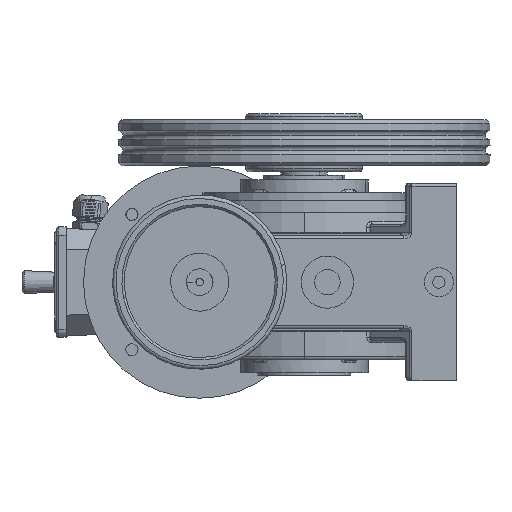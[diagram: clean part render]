
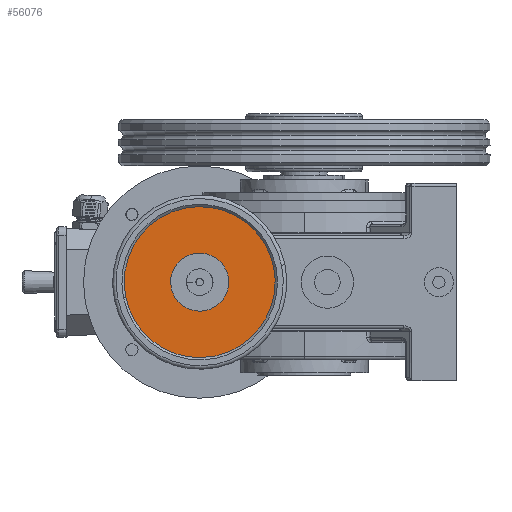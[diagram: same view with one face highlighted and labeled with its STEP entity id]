
A CAD part, left-side view. The second image highlights one B-rep face of the part: STEP entity #56076.
In plain terms, the highlighted planar face has unit normal (-1, 0, 0).
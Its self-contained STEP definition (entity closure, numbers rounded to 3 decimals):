
#1565 = CARTESIAN_POINT ( 'NONE',  ( -185.297, 69.794, 0. ) ) ;
#1844 = CARTESIAN_POINT ( 'NONE',  ( -185.297, 69.794, 0. ) ) ;
#2129 = AXIS2_PLACEMENT_3D ( 'NONE', #69241, #69669, #9526 ) ;
#3231 = AXIS2_PLACEMENT_3D ( 'NONE', #1565, #27494, #81020 ) ;
#4626 = ORIENTED_EDGE ( 'NONE', *, *, #56643, .F. ) ;
#5913 = AXIS2_PLACEMENT_3D ( 'NONE', #39472, #20152, #45609 ) ;
#9526 = DIRECTION ( 'NONE',  ( 0., 0.979, -0.202 ) ) ;
#12378 = DIRECTION ( 'NONE',  ( 1., 0., 0. ) ) ;
#18768 = AXIS2_PLACEMENT_3D ( 'NONE', #38321, #12378, #52763 ) ;
#19721 = FACE_BOUND ( 'NONE', #22039, .T. ) ;
#20152 = DIRECTION ( 'NONE',  ( -1., 0., 0. ) ) ;
#20326 = VERTEX_POINT ( 'NONE', #65128 ) ;
#20756 = DIRECTION ( 'NONE',  ( 1., 0., 0. ) ) ;
#22039 = EDGE_LOOP ( 'NONE', ( #39944, #59831 ) ) ;
#25810 = CIRCLE ( 'NONE', #18768, 25. ) ;
#27494 = DIRECTION ( 'NONE',  ( 1., 0., 0. ) ) ;
#27561 = EDGE_CURVE ( 'NONE', #80717, #66518, #25810, .T. ) ;
#30653 = CARTESIAN_POINT ( 'NONE',  ( -185.297, 94.28, -5.046 ) ) ;
#33750 = PLANE ( 'NONE',  #5913 ) ;
#36734 = CARTESIAN_POINT ( 'NONE',  ( -185.297, 45.309, 5.046 ) ) ;
#38321 = CARTESIAN_POINT ( 'NONE',  ( -185.297, 69.794, 0. ) ) ;
#39472 = CARTESIAN_POINT ( 'NONE',  ( -185.297, 74.84, 24.485 ) ) ;
#39944 = ORIENTED_EDGE ( 'NONE', *, *, #46304, .T. ) ;
#45609 = DIRECTION ( 'NONE',  ( 0., -0.979, 0.202 ) ) ;
#46304 = EDGE_CURVE ( 'NONE', #66518, #80717, #53984, .T. ) ;
#47545 = CIRCLE ( 'NONE', #54541, 65. ) ;
#49456 = CARTESIAN_POINT ( 'NONE',  ( -185.297, 133.456, -13.12 ) ) ;
#52763 = DIRECTION ( 'NONE',  ( 0., 0.979, -0.202 ) ) ;
#53984 = CIRCLE ( 'NONE', #2129, 25. ) ;
#54541 = AXIS2_PLACEMENT_3D ( 'NONE', #1844, #20756, #55385 ) ;
#55385 = DIRECTION ( 'NONE',  ( 0., 0.979, -0.202 ) ) ;
#56076 = ADVANCED_FACE ( 'NONE', ( #19721, #80707 ), #33750, .T. ) ;
#56643 = EDGE_CURVE ( 'NONE', #67826, #20326, #59308, .T. ) ;
#59308 = CIRCLE ( 'NONE', #3231, 65. ) ;
#59831 = ORIENTED_EDGE ( 'NONE', *, *, #27561, .T. ) ;
#65128 = CARTESIAN_POINT ( 'NONE',  ( -185.297, 6.132, 13.12 ) ) ;
#66518 = VERTEX_POINT ( 'NONE', #30653 ) ;
#67826 = VERTEX_POINT ( 'NONE', #49456 ) ;
#69241 = CARTESIAN_POINT ( 'NONE',  ( -185.297, 69.794, 0. ) ) ;
#69669 = DIRECTION ( 'NONE',  ( 1., 0., 0. ) ) ;
#75597 = EDGE_LOOP ( 'NONE', ( #85176, #4626 ) ) ;
#77886 = EDGE_CURVE ( 'NONE', #20326, #67826, #47545, .T. ) ;
#80707 = FACE_OUTER_BOUND ( 'NONE', #75597, .T. ) ;
#80717 = VERTEX_POINT ( 'NONE', #36734 ) ;
#81020 = DIRECTION ( 'NONE',  ( 0., 0.979, -0.202 ) ) ;
#85176 = ORIENTED_EDGE ( 'NONE', *, *, #77886, .F. ) ;
